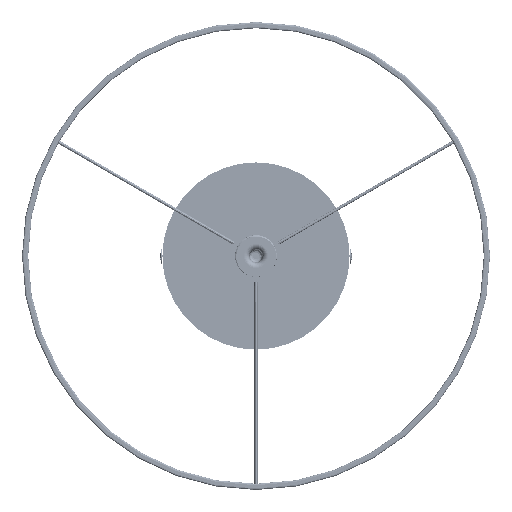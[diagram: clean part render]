
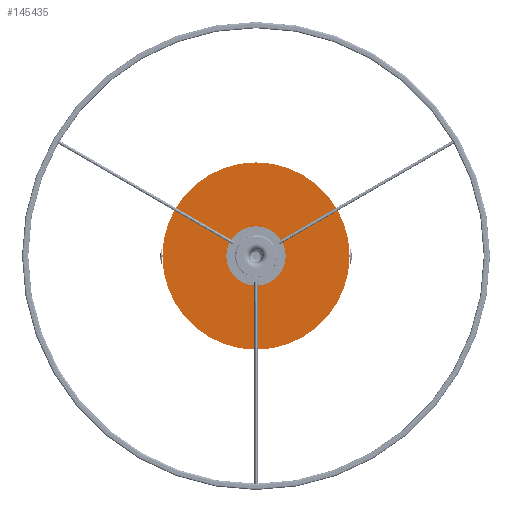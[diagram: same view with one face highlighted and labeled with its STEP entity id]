
A CAD part, front view. The second image highlights one B-rep face of the part: STEP entity #145435.
In plain terms, the highlighted planar face has unit normal (0, -1, 0).
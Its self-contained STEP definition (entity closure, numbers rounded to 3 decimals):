
#16367=PLANE('',#156108);
#48316=FACE_OUTER_BOUND('',#58113,.T.);
#58113=EDGE_LOOP('',(#104615));
#68361=CIRCLE('',#156106,60.);
#72447=VERTEX_POINT('',#228439);
#84400=EDGE_CURVE('',#72447,#72447,#68361,.T.);
#104615=ORIENTED_EDGE('',*,*,#84400,.F.);
#145435=ADVANCED_FACE('',(#48316),#16367,.F.);
#156106=AXIS2_PLACEMENT_3D('',#228441,#174495,#174496);
#156108=AXIS2_PLACEMENT_3D('',#228443,#174499,#174500);
#174495=DIRECTION('center_axis',(0.,1.,0.));
#174496=DIRECTION('ref_axis',(1.,0.,0.));
#174499=DIRECTION('center_axis',(0.,1.,0.));
#174500=DIRECTION('ref_axis',(1.,0.,0.));
#228439=CARTESIAN_POINT('',(-60.,0.,0.));
#228441=CARTESIAN_POINT('Origin',(0.,0.,0.));
#228443=CARTESIAN_POINT('Origin',(0.,0.,0.));
